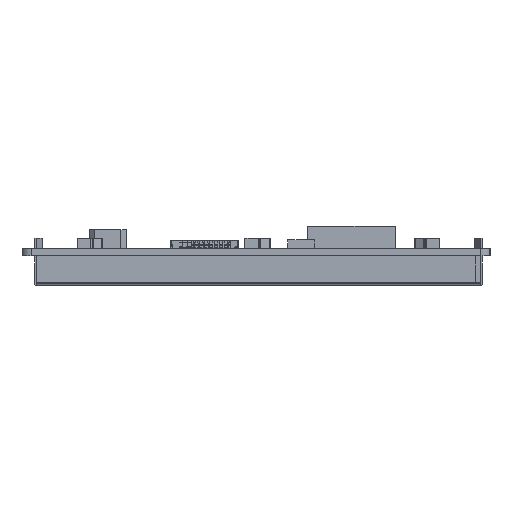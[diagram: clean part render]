
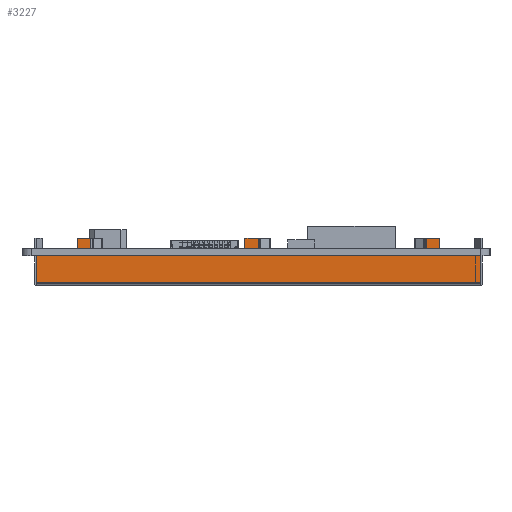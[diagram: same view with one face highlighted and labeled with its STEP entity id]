
A CAD part, left-side view. The second image highlights one B-rep face of the part: STEP entity #3227.
In plain terms, the highlighted planar face has unit normal (-1, 0, 0).
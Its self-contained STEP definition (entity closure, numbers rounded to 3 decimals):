
#3227=ADVANCED_FACE('',(#5483),#4244,.F.);
#4244=PLANE('',#28050);
#5483=FACE_OUTER_BOUND('',#6848,.T.);
#6848=EDGE_LOOP('',(#13533,#13534,#13535,#13536,#13537,#13538,#13539,#13540,
#13541,#13542,#13543,#13544,#13545,#13546,#13547,#13548,#13549,#13550,#13551));
#13533=ORIENTED_EDGE('',*,*,#19900,.T.);
#13534=ORIENTED_EDGE('',*,*,#19911,.T.);
#13535=ORIENTED_EDGE('',*,*,#19912,.F.);
#13536=ORIENTED_EDGE('',*,*,#19913,.T.);
#13537=ORIENTED_EDGE('',*,*,#19914,.F.);
#13538=ORIENTED_EDGE('',*,*,#19898,.T.);
#13539=ORIENTED_EDGE('',*,*,#19915,.T.);
#13540=ORIENTED_EDGE('',*,*,#19916,.F.);
#13541=ORIENTED_EDGE('',*,*,#19917,.F.);
#13542=ORIENTED_EDGE('',*,*,#19918,.T.);
#13543=ORIENTED_EDGE('',*,*,#19906,.T.);
#13544=ORIENTED_EDGE('',*,*,#19919,.T.);
#13545=ORIENTED_EDGE('',*,*,#19920,.F.);
#13546=ORIENTED_EDGE('',*,*,#19921,.F.);
#13547=ORIENTED_EDGE('',*,*,#19922,.T.);
#13548=ORIENTED_EDGE('',*,*,#19910,.T.);
#13549=ORIENTED_EDGE('',*,*,#19923,.F.);
#13550=ORIENTED_EDGE('',*,*,#19924,.F.);
#13551=ORIENTED_EDGE('',*,*,#19925,.T.);
#16384=VERTEX_POINT('',#41571);
#16386=VERTEX_POINT('',#41575);
#16387=VERTEX_POINT('',#41579);
#16389=VERTEX_POINT('',#41582);
#16392=VERTEX_POINT('',#41589);
#16394=VERTEX_POINT('',#41593);
#16396=VERTEX_POINT('',#41598);
#16398=VERTEX_POINT('',#41602);
#16399=VERTEX_POINT('',#41606);
#16400=VERTEX_POINT('',#41608);
#16401=VERTEX_POINT('',#41610);
#16402=VERTEX_POINT('',#41613);
#16403=VERTEX_POINT('',#41615);
#16404=VERTEX_POINT('',#41617);
#16405=VERTEX_POINT('',#41620);
#16406=VERTEX_POINT('',#41622);
#16407=VERTEX_POINT('',#41624);
#16408=VERTEX_POINT('',#41627);
#16409=VERTEX_POINT('',#41629);
#19898=EDGE_CURVE('',#16384,#16386,#23002,.T.);
#19900=EDGE_CURVE('',#16389,#16387,#23004,.T.);
#19906=EDGE_CURVE('',#16392,#16394,#23010,.T.);
#19910=EDGE_CURVE('',#16396,#16398,#23014,.T.);
#19911=EDGE_CURVE('',#16387,#16399,#23015,.T.);
#19912=EDGE_CURVE('',#16400,#16399,#23016,.T.);
#19913=EDGE_CURVE('',#16400,#16401,#23017,.T.);
#19914=EDGE_CURVE('',#16384,#16401,#23018,.T.);
#19915=EDGE_CURVE('',#16386,#16402,#23019,.T.);
#19916=EDGE_CURVE('',#16403,#16402,#23020,.T.);
#19917=EDGE_CURVE('',#16404,#16403,#23021,.T.);
#19918=EDGE_CURVE('',#16404,#16392,#23022,.T.);
#19919=EDGE_CURVE('',#16394,#16405,#23023,.T.);
#19920=EDGE_CURVE('',#16406,#16405,#23024,.T.);
#19921=EDGE_CURVE('',#16407,#16406,#23025,.T.);
#19922=EDGE_CURVE('',#16407,#16396,#23026,.T.);
#19923=EDGE_CURVE('',#16408,#16398,#23027,.T.);
#19924=EDGE_CURVE('',#16409,#16408,#23028,.T.);
#19925=EDGE_CURVE('',#16409,#16389,#23029,.T.);
#23002=LINE('',#41576,#26051);
#23004=LINE('',#41581,#26053);
#23010=LINE('',#41594,#26059);
#23014=LINE('',#41603,#26063);
#23015=LINE('',#41605,#26064);
#23016=LINE('',#41607,#26065);
#23017=LINE('',#41609,#26066);
#23018=LINE('',#41611,#26067);
#23019=LINE('',#41612,#26068);
#23020=LINE('',#41614,#26069);
#23021=LINE('',#41616,#26070);
#23022=LINE('',#41618,#26071);
#23023=LINE('',#41619,#26072);
#23024=LINE('',#41621,#26073);
#23025=LINE('',#41623,#26074);
#23026=LINE('',#41625,#26075);
#23027=LINE('',#41626,#26076);
#23028=LINE('',#41628,#26077);
#23029=LINE('',#41630,#26078);
#26051=VECTOR('',#34329,1.);
#26053=VECTOR('',#34333,1.);
#26059=VECTOR('',#34341,1.);
#26063=VECTOR('',#34347,1.);
#26064=VECTOR('',#34350,1.);
#26065=VECTOR('',#34351,1.);
#26066=VECTOR('',#34352,1.);
#26067=VECTOR('',#34353,1.);
#26068=VECTOR('',#34354,1.);
#26069=VECTOR('',#34355,1.);
#26070=VECTOR('',#34356,1.);
#26071=VECTOR('',#34357,1.);
#26072=VECTOR('',#34358,1.);
#26073=VECTOR('',#34359,1.);
#26074=VECTOR('',#34360,1.);
#26075=VECTOR('',#34361,1.);
#26076=VECTOR('',#34362,1.);
#26077=VECTOR('',#34363,1.);
#26078=VECTOR('',#34364,1.);
#28050=AXIS2_PLACEMENT_3D('',#41631,#34365,#34366);
#34329=DIRECTION('',(0.,1.,0.));
#34333=DIRECTION('',(0.,1.,0.));
#34341=DIRECTION('',(0.,1.,0.));
#34347=DIRECTION('',(0.,1.,0.));
#34350=DIRECTION('',(0.,0.,1.));
#34351=DIRECTION('',(0.,-1.,0.));
#34352=DIRECTION('',(0.,0.,-1.));
#34353=DIRECTION('',(0.,0.,1.));
#34354=DIRECTION('',(0.,0.,1.));
#34355=DIRECTION('',(0.,0.,-1.));
#34356=DIRECTION('',(0.,-1.,0.));
#34357=DIRECTION('',(0.,0.,-1.));
#34358=DIRECTION('',(0.,0.,1.));
#34359=DIRECTION('',(0.,0.,-1.));
#34360=DIRECTION('',(0.,-1.,0.));
#34361=DIRECTION('',(0.,0.,-1.));
#34362=DIRECTION('',(0.,0.,1.));
#34363=DIRECTION('',(0.,1.,0.));
#34364=DIRECTION('',(0.,0.,1.));
#34365=DIRECTION('',(1.,0.,0.));
#34366=DIRECTION('',(0.,-1.,0.));
#41571=CARTESIAN_POINT('',(435.624,-41.014,-1.6));
#41575=CARTESIAN_POINT('',(435.624,-3.188,-1.6));
#41576=CARTESIAN_POINT('',(435.624,-53.245,-1.6));
#41579=CARTESIAN_POINT('',(435.624,-44.038,-1.6));
#41581=CARTESIAN_POINT('',(435.624,-53.245,-1.6));
#41582=CARTESIAN_POINT('',(435.624,-53.245,-1.6));
#41589=CARTESIAN_POINT('',(435.624,-0.18,-1.6));
#41593=CARTESIAN_POINT('',(435.624,34.5,-1.6));
#41594=CARTESIAN_POINT('',(435.624,-53.245,-1.6));
#41598=CARTESIAN_POINT('',(435.624,37.54,-1.6));
#41602=CARTESIAN_POINT('',(435.624,46.775,-1.6));
#41603=CARTESIAN_POINT('',(435.624,-53.245,-1.6));
#41605=CARTESIAN_POINT('',(435.624,-44.038,-1.6));
#41606=CARTESIAN_POINT('',(435.624,-44.038,2.4));
#41607=CARTESIAN_POINT('',(435.624,-41.014,2.4));
#41608=CARTESIAN_POINT('',(435.624,-41.014,2.4));
#41609=CARTESIAN_POINT('',(435.624,-41.014,2.4));
#41610=CARTESIAN_POINT('',(435.624,-41.014,0.));
#41611=CARTESIAN_POINT('',(435.624,-41.014,-1.6));
#41612=CARTESIAN_POINT('',(435.624,-3.188,-1.6));
#41613=CARTESIAN_POINT('',(435.624,-3.188,0.));
#41614=CARTESIAN_POINT('',(435.624,-3.188,2.4));
#41615=CARTESIAN_POINT('',(435.624,-3.188,2.4));
#41616=CARTESIAN_POINT('',(435.624,-0.18,2.4));
#41617=CARTESIAN_POINT('',(435.624,-0.18,2.4));
#41618=CARTESIAN_POINT('',(435.624,-0.18,2.4));
#41619=CARTESIAN_POINT('',(435.624,34.5,-1.6));
#41620=CARTESIAN_POINT('',(435.624,34.5,0.));
#41621=CARTESIAN_POINT('',(435.624,34.5,2.4));
#41622=CARTESIAN_POINT('',(435.624,34.5,2.4));
#41623=CARTESIAN_POINT('',(435.624,37.54,2.4));
#41624=CARTESIAN_POINT('',(435.624,37.54,2.4));
#41625=CARTESIAN_POINT('',(435.624,37.54,2.4));
#41626=CARTESIAN_POINT('',(435.624,46.775,-7.9));
#41627=CARTESIAN_POINT('',(435.624,46.775,-7.9));
#41628=CARTESIAN_POINT('',(435.624,-53.245,-7.9));
#41629=CARTESIAN_POINT('',(435.624,-53.245,-7.9));
#41630=CARTESIAN_POINT('',(435.624,-53.245,-7.9));
#41631=CARTESIAN_POINT('',(435.624,-53.245,-7.9));
